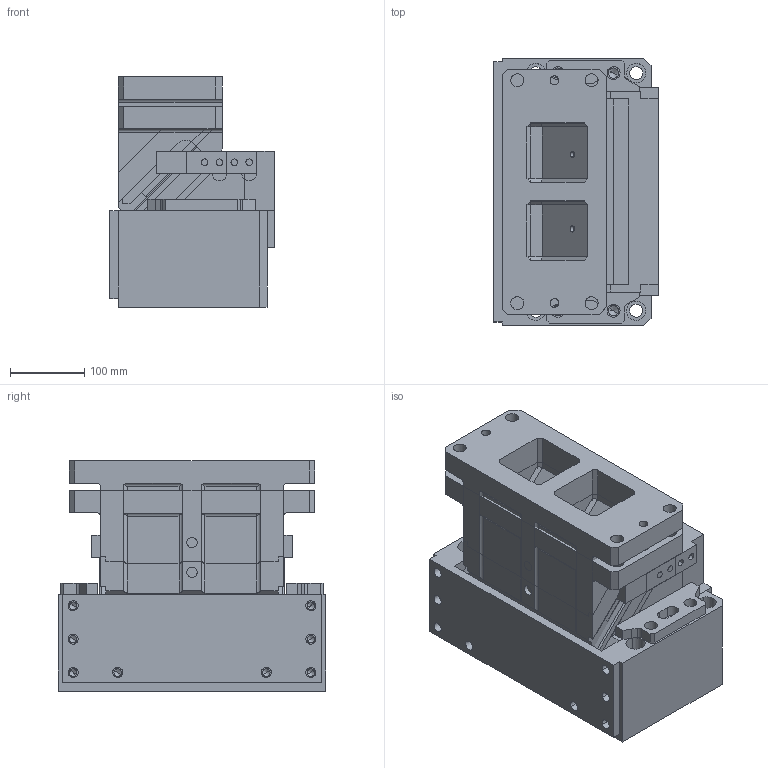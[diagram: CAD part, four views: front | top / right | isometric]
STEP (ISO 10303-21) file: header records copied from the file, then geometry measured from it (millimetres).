
FILE_DESCRIPTION(('CATIA V5 STEP','CAx-IF Rec.Pracs.--- Model Styling and Organization---1.4--- 2014-01-23','CAx-IF Rec.Pracs.---3D Tessellated Data Validation Properties---0.5---2014-09-14'),'2;1');
FILE_NAME('H:\_COMPRESS_2\2016.14.00.250.040.1.2__CM.stp','2020-11-18T14:03:50+00:00',('${USER}'),('AUDI AG, ${GROUP}'),'CATIA Version 5-6 Release 2018 SP3 HF27','CATIA V5 STEP AP242','none');
FILE_SCHEMA(('AP242_MANAGED_MODEL_BASED_3D_ENGINEERING_MIM_LF {1 0 10303 442 1 1 4}'));
Length unit declared in the file: millimetre
Products named in the file (1): 2016.14.00.250.040.1.2__CM
Bounding box: 222 x 360 x 310 mm (x, y, z)
Volume: 21032454.6 mm3; surface area: 1470291.2 mm2
Topology: 4 solids, 12 shells, 1131 faces, 2733 edges, 1706 vertices
Faces by surface type: plane 546, cylinder 443, cone 72, torus 64, sphere 4, bspline 2
Entity records: 31464 total; most frequent: CARTESIAN_POINT 7078, ORIENTED_EDGE 5364, DIRECTION 4053, EDGE_CURVE 2682, VERTEX_POINT 1710, AXIS2_PLACEMENT_3D 1665, VECTOR 1607, LINE 1607
